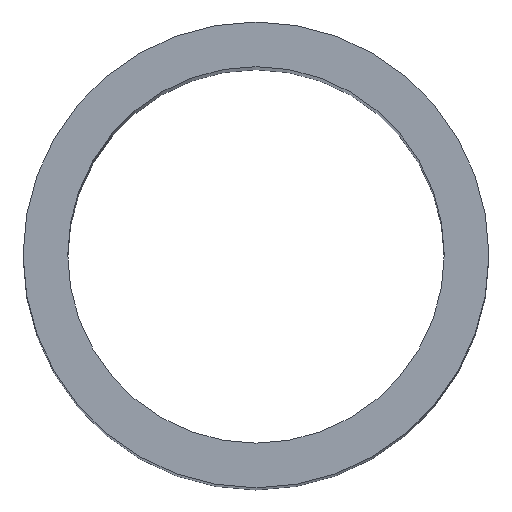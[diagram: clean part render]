
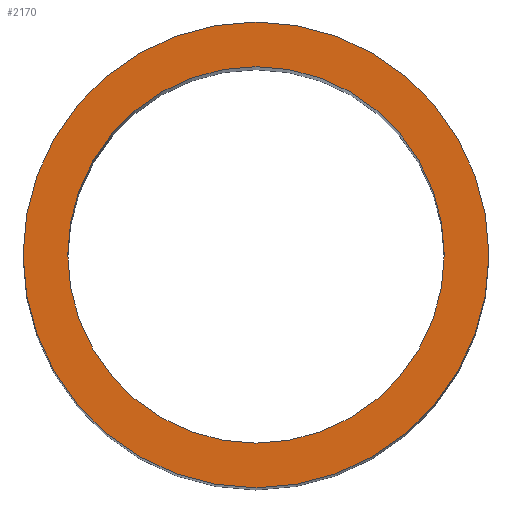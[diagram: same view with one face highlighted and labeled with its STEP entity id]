
A CAD part, top view. The second image highlights one B-rep face of the part: STEP entity #2170.
In plain terms, the highlighted planar face has unit normal (0, 0, 1).
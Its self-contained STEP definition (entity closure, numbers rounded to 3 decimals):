
#1820=CARTESIAN_POINT('',(0.,0.,120.));
#1830=DIRECTION('',(0.,0.,1.));
#1840=DIRECTION('',(1.,0.,0.));
#1850=AXIS2_PLACEMENT_3D('',#1820,#1830,#1840);
#1860=PLANE('',#1850);
#1870=CARTESIAN_POINT('',(41.584,52.978,120.));
#1880=DIRECTION('',(0.,0.,1.));
#1890=DIRECTION('',(1.,0.,0.));
#1900=AXIS2_PLACEMENT_3D('',#1870,#1880,#1890);
#1910=CIRCLE('',#1900,15.65);
#1920=CARTESIAN_POINT('',(57.234,52.978,120.));
#1930=VERTEX_POINT('',#1920);
#1940=CARTESIAN_POINT('',(25.934,52.978,120.));
#1950=VERTEX_POINT('',#1940);
#1960=EDGE_CURVE('',#1930,#1950,#1910,.T.);
#1970=ORIENTED_EDGE('',*,*,#1960,.T.);
#1980=EDGE_CURVE('',#1950,#1930,#1910,.T.);
#1990=ORIENTED_EDGE('',*,*,#1980,.T.);
#2000=EDGE_LOOP('',(#1990,#1970));
#2010=FACE_OUTER_BOUND('',#2000,.T.);
#2020=CARTESIAN_POINT('',(41.584,52.978,120.));
#2030=DIRECTION('',(0.,0.,1.));
#2040=DIRECTION('',(1.,0.,0.));
#2050=AXIS2_PLACEMENT_3D('',#2020,#2030,#2040);
#2060=CIRCLE('',#2050,12.65);
#2070=CARTESIAN_POINT('',(54.234,52.978,120.));
#2080=VERTEX_POINT('',#2070);
#2090=CARTESIAN_POINT('',(28.934,52.978,120.));
#2100=VERTEX_POINT('',#2090);
#2110=EDGE_CURVE('',#2080,#2100,#2060,.T.);
#2120=ORIENTED_EDGE('',*,*,#2110,.F.);
#2130=EDGE_CURVE('',#2100,#2080,#2060,.T.);
#2140=ORIENTED_EDGE('',*,*,#2130,.F.);
#2150=EDGE_LOOP('',(#2140,#2120));
#2160=FACE_BOUND('',#2150,.T.);
#2170=ADVANCED_FACE('',(#2010,#2160),#1860,.T.);
